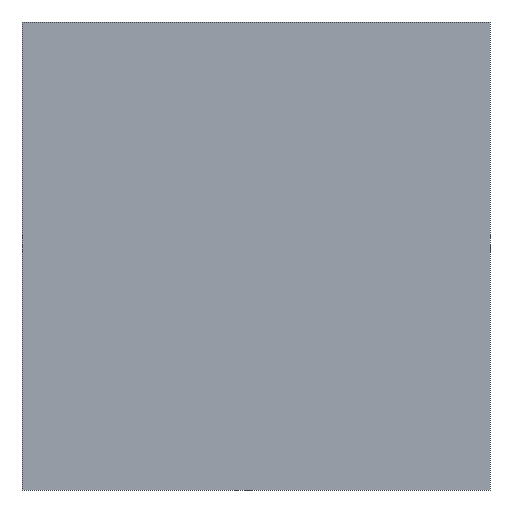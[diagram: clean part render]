
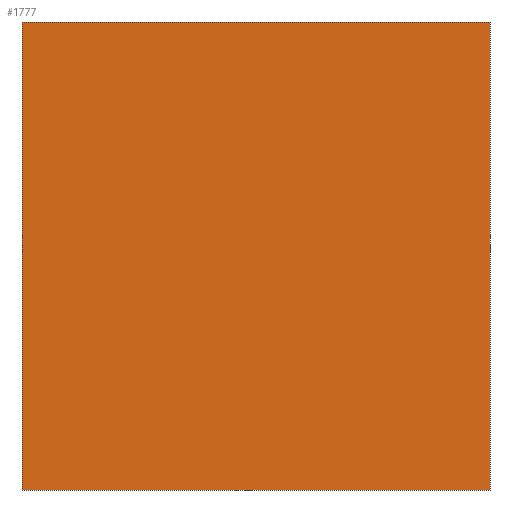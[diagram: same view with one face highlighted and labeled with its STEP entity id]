
A CAD part, front view. The second image highlights one B-rep face of the part: STEP entity #1777.
In plain terms, the highlighted planar face has unit normal (0, -1, 0).
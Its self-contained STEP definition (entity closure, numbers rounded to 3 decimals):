
#2=DIRECTION('',(0.,0.,1.));
#3=VECTOR('',#2,44.5);
#4=CARTESIAN_POINT('',(-22.25,0.,-22.25));
#5=LINE('',#4,#3);
#6=DIRECTION('',(1.,0.,0.));
#7=VECTOR('',#6,44.5);
#8=CARTESIAN_POINT('',(-22.25,0.,22.25));
#9=LINE('',#8,#7);
#10=DIRECTION('',(0.,0.,-1.));
#11=VECTOR('',#10,44.5);
#12=CARTESIAN_POINT('',(22.25,0.,22.25));
#13=LINE('',#12,#11);
#14=DIRECTION('',(-1.,0.,0.));
#15=VECTOR('',#14,44.5);
#16=CARTESIAN_POINT('',(22.25,0.,-22.25));
#17=LINE('',#16,#15);
#1362=CARTESIAN_POINT('',(-22.25,0.,-22.25));
#1363=CARTESIAN_POINT('',(-22.25,0.,22.25));
#1364=VERTEX_POINT('',#1362);
#1365=VERTEX_POINT('',#1363);
#1366=CARTESIAN_POINT('',(22.25,0.,22.25));
#1367=VERTEX_POINT('',#1366);
#1368=CARTESIAN_POINT('',(22.25,0.,-22.25));
#1369=VERTEX_POINT('',#1368);
#1762=CARTESIAN_POINT('',(0.,0.,0.));
#1763=DIRECTION('',(0.,1.,0.));
#1764=DIRECTION('',(1.,0.,0.));
#1765=AXIS2_PLACEMENT_3D('',#1762,#1763,#1764);
#1766=PLANE('',#1765);
#1768=ORIENTED_EDGE('',*,*,#1767,.T.);
#1770=ORIENTED_EDGE('',*,*,#1769,.T.);
#1772=ORIENTED_EDGE('',*,*,#1771,.T.);
#1774=ORIENTED_EDGE('',*,*,#1773,.T.);
#1775=EDGE_LOOP('',(#1768,#1770,#1772,#1774));
#1776=FACE_OUTER_BOUND('',#1775,.F.);
#1777=ADVANCED_FACE('',(#1776),#1766,.F.);
#1767=EDGE_CURVE('',#1364,#1365,#5,.T.);
#1769=EDGE_CURVE('',#1365,#1367,#9,.T.);
#1771=EDGE_CURVE('',#1367,#1369,#13,.T.);
#1773=EDGE_CURVE('',#1369,#1364,#17,.T.);
